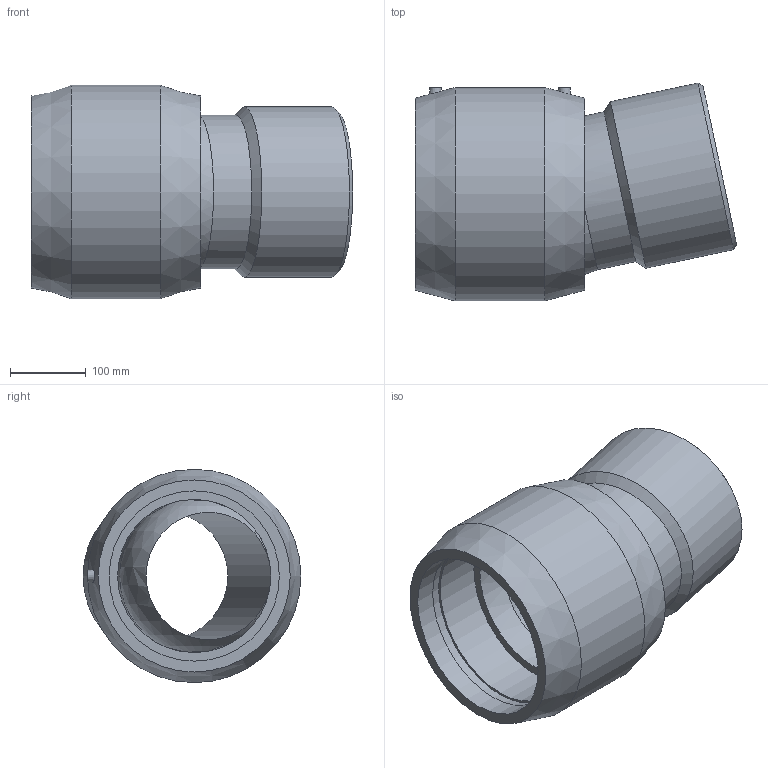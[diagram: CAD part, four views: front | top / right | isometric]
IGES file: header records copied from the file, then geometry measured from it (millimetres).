
Global section: file name: 4947D4225.ipt; native system: Autodesk Inventor 2015; preprocessor: unknown; author: KIM; date: 20171106.094214; units: millimetre
Bounding box: 424.83 x 287.91 x 282 mm (x, y, z)
Volume: 8801039.7 mm3; surface area: 680038.9 mm2
Topology: 1 solids, 1 shells, 32 faces, 74 edges, 49 vertices
Faces by surface type: plane 11, revolution 7, cone 6, cylinder 6, sphere 2
Full cylindrical faces by diameter (mm): 4 x2, 202.5 x1, 225 x1, 282 x1
